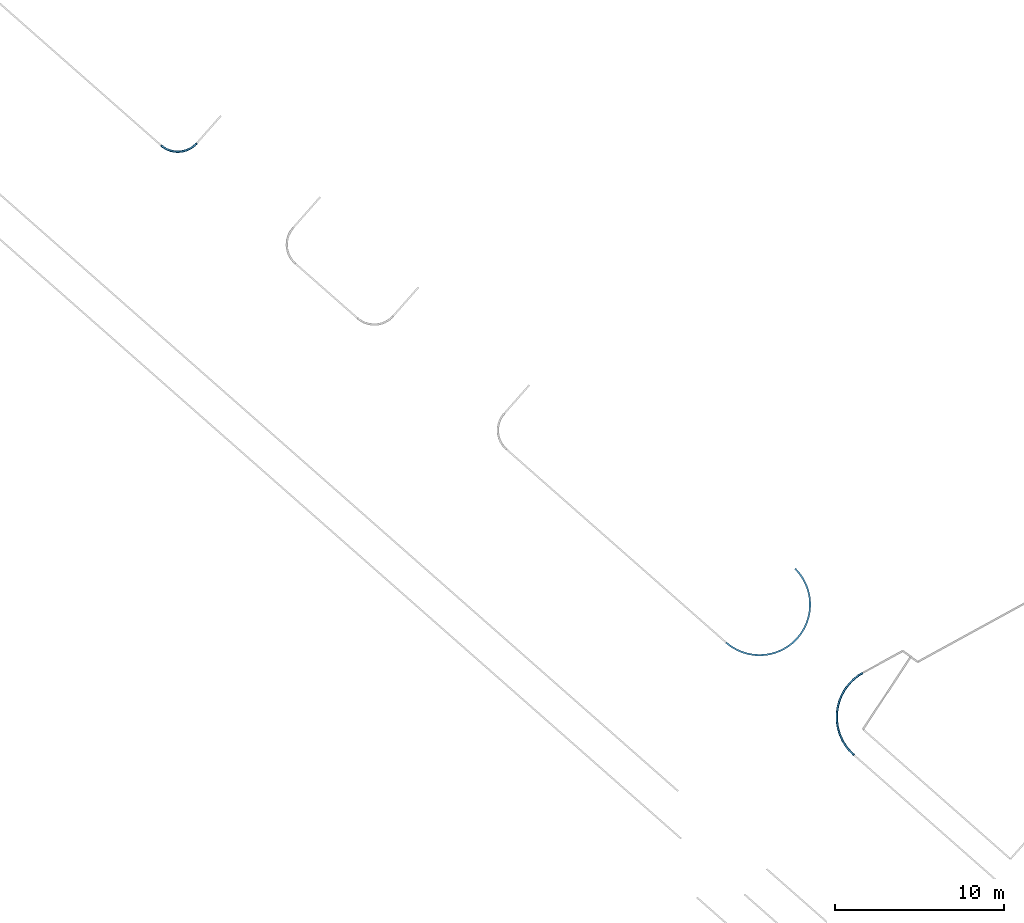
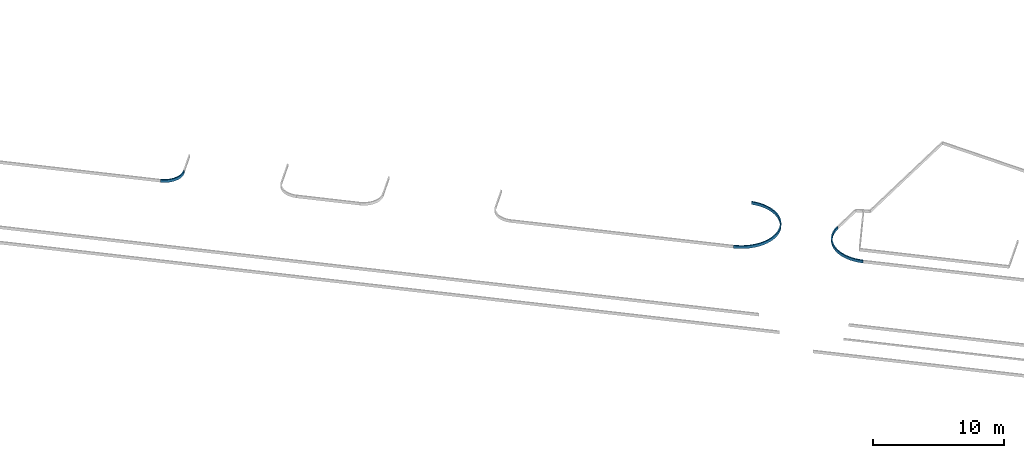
# One storey, part 22 of 24: 3 beams.
"""IFC2X3 building model written with IfcOpenShell, lengths in millimetres."""

from ifc_helpers import new_model, entity, si_unit, converted_unit, derived_unit, direction, frame, origin, place, context, subcontext, project, spatial, faceted_brep, material, type_object, element, save


model = new_model("IFC2X3")

# Units and contexts
model_context = context("Model", 3, precision=0.01, world=origin(), true_north=direction((6.123031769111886e-17, 1.0)))
body_context = subcontext(model_context, "Body", "Model", "MODEL_VIEW")
ifc_project = project(units=[si_unit("LENGTHUNIT", "METRE", prefix="MILLI"), si_unit("AREAUNIT", "SQUARE_METRE"), si_unit("VOLUMEUNIT", "CUBIC_METRE"), converted_unit("PLANEANGLEUNIT", "DEGREE", entity("IfcRatioMeasure", 0.017453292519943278), si_unit("PLANEANGLEUNIT", "RADIAN"), dimensions=[0, 0, 0, 0, 0, 0, 0]), si_unit("MASSUNIT", "GRAM", prefix="KILO"), derived_unit("MASSDENSITYUNIT", [(si_unit("MASSUNIT", "GRAM", prefix="KILO"), 1), (si_unit("LENGTHUNIT", "METRE"), -3)]), derived_unit("MOMENTOFINERTIAUNIT", [(si_unit("LENGTHUNIT", "METRE"), 4)]), si_unit("TIMEUNIT", "SECOND"), si_unit("FREQUENCYUNIT", "HERTZ"), si_unit("THERMODYNAMICTEMPERATUREUNIT", "DEGREE_CELSIUS"), derived_unit("THERMALTRANSMITTANCEUNIT", [(si_unit("MASSUNIT", "GRAM", prefix="KILO"), 1), (si_unit("THERMODYNAMICTEMPERATUREUNIT", "KELVIN"), -1), (si_unit("TIMEUNIT", "SECOND"), -3)]), derived_unit("THERMALCONDUCTANCEUNIT", [(si_unit("MASSUNIT", "GRAM", prefix="KILO"), 1), (si_unit("LENGTHUNIT", "METRE"), 1), (si_unit("THERMODYNAMICTEMPERATUREUNIT", "KELVIN"), -1), (si_unit("TIMEUNIT", "SECOND"), -3)]), derived_unit("VOLUMETRICFLOWRATEUNIT", [(si_unit("LENGTHUNIT", "METRE"), 3), (si_unit("TIMEUNIT", "SECOND"), -1)]), derived_unit("MASSFLOWRATEUNIT", [(si_unit("MASSUNIT", "GRAM", prefix="KILO"), 1), (si_unit("TIMEUNIT", "SECOND"), -1)]), derived_unit("ROTATIONALFREQUENCYUNIT", [(si_unit("TIMEUNIT", "SECOND"), -1)]), si_unit("ELECTRICCURRENTUNIT", "AMPERE"), si_unit("ELECTRICVOLTAGEUNIT", "VOLT"), si_unit("POWERUNIT", "WATT"), converted_unit("FORCEUNIT", "KIP", entity("IfcRatioMeasure", 2.088543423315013e-05), si_unit("FORCEUNIT", "NEWTON"), dimensions=[1, 1, -2, 0, 0, 0, 0]), si_unit("ILLUMINANCEUNIT", "LUX"), si_unit("LUMINOUSFLUXUNIT", "LUMEN"), si_unit("LUMINOUSINTENSITYUNIT", "CANDELA"), derived_unit("USERDEFINED", [(si_unit("MASSUNIT", "GRAM", prefix="KILO"), -1), (si_unit("LENGTHUNIT", "METRE"), -2), (si_unit("TIMEUNIT", "SECOND"), 3), (si_unit("LUMINOUSFLUXUNIT", "LUMEN"), 1)]), derived_unit("USERDEFINED", [(si_unit("MASSUNIT", "GRAM", prefix="KILO"), 1), (si_unit("LENGTHUNIT", "METRE"), 3), (si_unit("TIMEUNIT", "SECOND"), -3), (si_unit("ELECTRICCURRENTUNIT", "AMPERE"), -2)]), derived_unit("USERDEFINED", [(si_unit("LENGTHUNIT", "METRE"), 2), (si_unit("TIMEUNIT", "SECOND"), -2)]), derived_unit("SOUNDPOWERUNIT", [(si_unit("MASSUNIT", "GRAM", prefix="KILO"), 1), (si_unit("LENGTHUNIT", "METRE"), 2), (si_unit("TIMEUNIT", "SECOND"), -3)]), derived_unit("SOUNDPRESSUREUNIT", [(si_unit("MASSUNIT", "GRAM", prefix="KILO"), 1), (si_unit("LENGTHUNIT", "METRE"), -1), (si_unit("TIMEUNIT", "SECOND"), -2)]), derived_unit("LINEARVELOCITYUNIT", [(si_unit("LENGTHUNIT", "METRE"), 1), (si_unit("TIMEUNIT", "SECOND"), -1)]), si_unit("PRESSUREUNIT", "PASCAL"), derived_unit("USERDEFINED", [(si_unit("LENGTHUNIT", "METRE"), -2), (si_unit("MASSUNIT", "GRAM", prefix="KILO"), 1), (si_unit("TIMEUNIT", "SECOND"), -2)]), derived_unit("LINEARFORCEUNIT", [(si_unit("MASSUNIT", "GRAM", prefix="KILO"), 1), (si_unit("LENGTHUNIT", "METRE"), 1), (si_unit("TIMEUNIT", "SECOND"), -2), (si_unit("LENGTHUNIT", "METRE"), -1)]), derived_unit("PLANARFORCEUNIT", [(si_unit("MASSUNIT", "GRAM", prefix="KILO"), 1), (si_unit("LENGTHUNIT", "METRE"), 1), (si_unit("TIMEUNIT", "SECOND"), -2), (si_unit("LENGTHUNIT", "METRE"), -2)]), derived_unit("SPECIFICHEATCAPACITYUNIT", [(si_unit("LENGTHUNIT", "METRE"), 2), (si_unit("TIMEUNIT", "SECOND"), -2), (si_unit("THERMODYNAMICTEMPERATUREUNIT", "KELVIN"), -1)]), derived_unit("VAPORPERMEABILITYUNIT", [(si_unit("TIMEUNIT", "SECOND"), 1), (si_unit("LENGTHUNIT", "METRE"), -1)]), derived_unit("DYNAMICVISCOSITYUNIT", [(si_unit("MASSUNIT", "GRAM", prefix="KILO"), 1), (si_unit("LENGTHUNIT", "METRE"), -1), (si_unit("TIMEUNIT", "SECOND"), -1)]), derived_unit("THERMALEXPANSIONCOEFFICIENTUNIT", [(si_unit("THERMODYNAMICTEMPERATUREUNIT", "KELVIN"), -1)])], contexts=[model_context])

# Site, building, storey
site_placement = place(None, frame((0.0, 0.0, 0.0), z_axis=(0.0, 0.0, 1.0), x_axis=(0.8191520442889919, 0.5735764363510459, 0.0)))
site = spatial("IfcSite", under=ifc_project, at=site_placement, Name="Default", CompositionType="ELEMENT")
building_placement = place(site_placement, origin())
building = spatial("IfcBuilding", under=site, at=building_placement, CompositionType="ELEMENT")
storey_placement = place(building_placement, frame((0.0, 0.0, -1150.0)))
storey = spatial("IfcBuildingStorey", under=building, at=storey_placement, Name="6.EG KH -1.15", CompositionType="ELEMENT", Elevation=-1150.0000000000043)

# Beams
ifc_material = material(Name="Paveta_bordur")
beam_type_1 = type_object("IfcBeamType", Name="Beam-140", PredefinedType="NOTDEFINED")
beam_1_placement = place(storey_placement, frame((-114273.63336337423, 183572.0890714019, 910.0)))
element("IfcBeam", 1, at=beam_1_placement, inside=storey, type_object=beam_type_1, material=ifc_material, Name="Beam-140 237496:Beam-140 237496", ObjectType="Beam-140 237496:Beam-140 237496", context=body_context, shape_type="Brep", body=[
    faceted_brep([(5868.967603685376, 3572.3588704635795, 0.0), (5868.967603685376, 3572.3588704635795, 250.0), (5967.394927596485, 3590.0241445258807, 250.0), (5967.394927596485, 3590.0241445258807, 0.0), (1.5952722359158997, 2331.096690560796, 250.0), (98.76789885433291, 2354.7077184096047, 250.0), (98.76789885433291, 2354.7077184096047, 0.0), (1.5952722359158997, 2331.096690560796, 0.0), (5896.866819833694, 3381.0466427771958, 0.0), (5896.866819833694, 3381.0466427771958, 250.0), (5912.174719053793, 3188.3178100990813, 0.0), (5912.174719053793, 3188.3178100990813, 250.0), (5914.825551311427, 2995.0001755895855, 250.0), (5914.825551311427, 2995.0001755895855, 0.0), (5904.807930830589, 2801.924071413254, 250.0), (5904.807930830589, 2801.924071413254, 0.0), (5846.993669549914, 2419.809033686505, 250.0), (5882.1648849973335, 2609.918792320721, 250.0), (5882.1648849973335, 2609.918792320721, 0.0), (5846.993669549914, 2419.809033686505, 0.0), (5584.840377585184, 1694.4608689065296, 250.0), (5668.086600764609, 1868.9567171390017, 250.0), (5668.086600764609, 1868.9567171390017, 0.0), (5584.840377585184, 1694.4608689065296, 0.0), (5739.724157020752, 2048.5306441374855, 250.0), (5739.724157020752, 2048.5306441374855, 0.0), (5799.445350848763, 2232.411349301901, 250.0), (5799.445350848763, 2232.411349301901, 0.0), (5490.343044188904, 1525.79258882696, 0.0), (5490.343044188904, 1525.79258882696, 250.0), (4553.533430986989, 565.2300183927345, 250.0), (4712.961750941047, 674.597954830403, 250.0), (4712.961750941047, 674.597954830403, 0.0), (4553.533430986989, 565.2300183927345, 0.0), (4387.283639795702, 466.5398889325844, 0.0), (4387.283639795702, 466.5398889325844, 250.0), (4037.2021606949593, 302.84093091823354, 250.0), (4214.926448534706, 378.9514573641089, 250.0), (4214.926448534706, 378.9514573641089, 0.0), (4037.2021606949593, 302.84093091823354, 0.0), (3854.8741323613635, 238.5352172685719, 250.0), (3854.8741323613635, 238.5352172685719, 0.0), (5269.26515741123, 1208.8084270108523, 250.0), (5385.000482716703, 1363.676335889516, 250.0), (5385.000482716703, 1363.676335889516, 0.0), (5269.26515741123, 1208.8084270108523, 0.0), (5143.634171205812, 1061.854046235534, 250.0), (5143.634171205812, 1061.854046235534, 0.0), (4864.883827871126, 794.1739443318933, 0.0), (4864.883827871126, 794.1739443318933, 250.0), (5008.647130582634, 923.4443876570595, 250.0), (5008.647130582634, 923.4443876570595, 0.0), (3668.725493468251, 186.31052040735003, 250.0), (3668.725493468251, 186.31052040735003, 0.0), (3479.5557841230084, 146.39115430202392, 0.0), (3479.5557841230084, 146.39115430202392, 250.0), (2517.086951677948, 135.49074965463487, 250.0), (2517.086951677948, 135.49074965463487, 0.0), (2327.061669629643, 171.1155571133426, 0.0), (2327.061669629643, 171.1155571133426, 250.0), (2139.777991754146, 219.11096028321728, 0.0), (2139.777991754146, 219.11096028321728, 250.0), (1956.0403333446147, 279.27081073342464, 250.0), (1956.0403333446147, 279.27081073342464, 0.0), (1776.637878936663, 351.33671166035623, 0.0), (1776.637878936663, 351.33671166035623, 250.0), (1602.3411926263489, 434.99912774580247, 0.0), (1602.3411926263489, 434.99912774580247, 250.0), (3288.177520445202, 118.94857942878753, 250.0), (3288.177520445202, 118.94857942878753, 0.0), (3095.4127046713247, 104.10066632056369, 0.0), (3095.4127046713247, 104.10066632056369, 250.0), (2709.037646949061, 112.38955252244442, 250.0), (2902.0892945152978, 101.91118929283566, 250.0), (2902.0892945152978, 101.91118929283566, 0.0), (2709.037646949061, 112.38955252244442, 0.0), (1433.898908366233, 529.8987146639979, 250.0), (1433.898908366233, 529.8987146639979, 0.0), (475.5747458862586, 1468.998018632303, 250.0), (584.5618992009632, 1309.3091488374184, 250.0), (584.5618992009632, 1309.3091488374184, 0.0), (475.5747458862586, 1468.998018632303, 0.0), (377.28164841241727, 1635.482857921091, 0.0), (377.28164841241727, 1635.482857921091, 250.0), (214.41861721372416, 1985.9540035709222, 250.0), (290.1047923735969, 1808.0485859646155, 250.0), (290.1047923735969, 1808.0485859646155, 0.0), (214.41861721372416, 1985.9540035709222, 0.0), (150.54820794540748, 2168.434976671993, 250.0), (150.54820794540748, 2168.434976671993, 0.0), (1117.4432460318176, 751.7324466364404, 250.0), (1272.034514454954, 635.62786252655, 250.0), (1272.034514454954, 635.62786252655, 0.0), (1117.4432460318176, 751.7324466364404, 0.0), (970.789098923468, 877.713778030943, 250.0), (970.789098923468, 877.713778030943, 0.0), (703.7749899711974, 1157.1021394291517, 0.0), (703.7749899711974, 1157.1021394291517, 250.0), (832.7019776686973, 1013.0307454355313, 250.0), (832.7019776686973, 1013.0307454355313, 0.0), (118.16882564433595, 1957.6150722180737, 250.0), (281.59452191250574, 1602.129552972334, 250.0), (489.183099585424, 1270.4898463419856, 250.0), (737.518572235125, 968.1532696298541, 250.0), (1022.5144404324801, 700.0949407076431, 250.0), (1339.4809373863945, 470.7259096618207, 250.0), (1683.2022016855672, 283.82057249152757, 250.0), (2048.022107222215, 142.4545613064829, 250.0), (2427.937337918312, 48.95413307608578, 250.0), (2816.696175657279, 4.857889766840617, 250.0), (3207.9013758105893, 10.89145978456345, 250.0), (3595.1154374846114, 66.95555735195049, 250.0), (3971.966536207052, 172.127616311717, 250.0), (4332.253375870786, 324.6769714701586, 250.0), (4670.047234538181, 522.0933376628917, 250.0), (4979.789524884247, 761.1281179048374, 250.0), (5256.383263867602, 1037.847860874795, 250.0), (5495.276946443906, 1347.6989880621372, 250.0), (5692.539443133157, 1685.5827254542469, 250.0), (5844.9246889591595, 2045.9390067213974, 250.0), (5949.925099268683, 2422.837967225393, 250.0), (6005.812833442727, 2810.077523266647, 250.0), (6011.668227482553, 3201.2854308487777, 250.0), (6011.668227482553, 3201.2854308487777, 0.0), (6005.812833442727, 2810.077523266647, 0.0), (5692.539443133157, 1685.5827254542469, 0.0), (5844.9246889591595, 2045.9390067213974, 0.0), (5949.925099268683, 2422.837967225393, 0.0), (4670.047234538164, 522.0933376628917, 0.0), (4979.78952488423, 761.1281179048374, 0.0), (4332.253375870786, 324.6769714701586, 0.0), (5256.383263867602, 1037.847860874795, 0.0), (5495.276946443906, 1347.6989880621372, 0.0), (3971.966536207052, 172.127616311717, 0.0), (3595.1154374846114, 66.95555735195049, 0.0), (2048.022107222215, 142.4545613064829, 0.0), (2427.937337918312, 48.95413307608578, 0.0), (1683.2022016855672, 283.82057249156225, 0.0), (2816.696175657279, 4.857889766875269, 0.0), (3207.9013758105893, 10.89145978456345, 0.0), (1339.480937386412, 470.7259096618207, 0.0), (281.594521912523, 1602.129552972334, 0.0), (489.183099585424, 1270.4898463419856, 0.0), (118.16882564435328, 1957.6150722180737, 0.0), (737.518572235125, 968.1532696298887, 0.0), (1022.5144404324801, 700.0949407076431, 0.0)], [[[0, 1, 2, 3]], [[4, 5, 6, 7]], [[0, 8, 9, 1]], [[8, 10, 11, 9]], [[12, 11, 10, 13]], [[14, 12, 13, 15]], [[16, 17, 18, 19]], [[14, 15, 18, 17]], [[20, 21, 22, 23]], [[24, 25, 22, 21]], [[25, 24, 26, 27]], [[20, 23, 28, 29]], [[16, 19, 27, 26]], [[30, 31, 32, 33]], [[30, 33, 34, 35]], [[36, 37, 38, 39]], [[38, 37, 35, 34]], [[40, 36, 39, 41]], [[42, 43, 44, 45]], [[46, 42, 45, 47]], [[48, 49, 50, 51]], [[51, 50, 46, 47]], [[31, 49, 48, 32]], [[29, 28, 44, 43]], [[52, 40, 41, 53]], [[53, 54, 55, 52]], [[56, 57, 58, 59]], [[60, 61, 59, 58]], [[62, 63, 64, 65]], [[62, 61, 60, 63]], [[65, 64, 66, 67]], [[68, 55, 54, 69]], [[68, 69, 70, 71]], [[72, 73, 74, 75]], [[74, 73, 71, 70]], [[72, 75, 57, 56]], [[76, 67, 66, 77]], [[78, 79, 80, 81]], [[78, 81, 82, 83]], [[84, 85, 86, 87]], [[86, 85, 83, 82]], [[88, 84, 87, 89]], [[90, 91, 92, 93]], [[94, 90, 93, 95]], [[96, 97, 98, 99]], [[94, 95, 99, 98]], [[79, 97, 96, 80]], [[76, 77, 92, 91]], [[5, 88, 89, 6]], [[88, 5, 4, 100, 101, 102, 103, 104, 105, 106, 107, 108, 109, 110, 111, 112, 113, 114, 115, 116, 117, 118, 119, 120, 121, 122, 2, 1, 9, 11, 12, 14, 17, 16, 26, 24, 21, 20, 29, 43, 42, 46, 50, 49, 31, 30, 35, 37, 36, 40, 52, 55, 68, 71, 73, 72, 56, 59, 61, 62, 65, 67, 76, 91, 90, 94, 98, 97, 79, 78, 83, 85, 84]], [[122, 123, 3, 2]], [[121, 124, 123, 122]], [[125, 126, 119, 118]], [[120, 127, 124, 121]], [[126, 127, 120, 119]], [[128, 129, 115, 114]], [[130, 128, 114, 113]], [[131, 132, 117, 116]], [[129, 131, 116, 115]], [[117, 132, 125, 118]], [[133, 130, 113, 112]], [[112, 111, 134, 133]], [[107, 135, 136, 108]], [[106, 137, 135, 107]], [[138, 139, 110, 109]], [[108, 136, 138, 109]], [[140, 137, 106, 105]], [[141, 142, 102, 101]], [[143, 141, 101, 100]], [[144, 145, 104, 103]], [[142, 144, 103, 102]], [[104, 145, 140, 105]], [[7, 143, 100, 4]], [[110, 139, 134, 111]], [[7, 6, 89, 87, 86, 82, 81, 80, 96, 99, 95, 93, 92, 77, 66, 64, 63, 60, 58, 57, 75, 74, 70, 69, 54, 53, 41, 39, 38, 34, 33, 32, 48, 51, 47, 45, 44, 28, 23, 22, 25, 27, 19, 18, 15, 13, 10, 8, 0, 3, 123, 124, 127, 126, 125, 132, 131, 129, 128, 130, 133, 134, 139, 138, 136, 135, 137, 140, 145, 144, 142, 141, 143]]]),
])
beam_type_2 = type_object("IfcBeamType", Name="Beam-139", PredefinedType="NOTDEFINED")
beam_2_placement = place(storey_placement, frame((-111974.0769520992, 176084.61291335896, 910.0)))
element("IfcBeam", 2, at=beam_2_placement, inside=storey, type_object=beam_type_2, material=ifc_material, Name="Beam-139 237500:Beam-139 237500", ObjectType="Beam-139 237500:Beam-139 237500", context=body_context, shape_type="Brep", body=[
    faceted_brep([(184.5430260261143, 25.206300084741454, 0.0), (184.5430260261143, 25.206300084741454, 250.0), (87.37039940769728, 1.5952722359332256, 250.0), (87.37039940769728, 1.5952722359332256, 0.0), (3382.2489681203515, 3753.705216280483, 250.0), (3371.3927892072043, 3654.2962459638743, 250.0), (3371.3927892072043, 3654.2962459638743, 0.0), (3382.2489681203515, 3753.705216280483, 0.0), (145.89986757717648, 209.7688743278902, 0.0), (145.89986757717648, 209.7688743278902, 250.0), (119.12690857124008, 396.42322378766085, 0.0), (119.12690857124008, 396.42322378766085, 250.0), (104.33353785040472, 584.4067169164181, 0.0), (104.33353785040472, 584.4067169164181, 250.0), (132.18937081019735, 1148.6431219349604, 250.0), (110.87813892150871, 961.2865930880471, 250.0), (110.87813892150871, 961.2865930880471, 0.0), (132.18937081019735, 1148.6431219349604, 0.0), (101.5801981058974, 772.9512915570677, 250.0), (101.5801981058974, 772.9512915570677, 0.0), (414.20487299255, 2044.2658589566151, 250.0), (335.09834690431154, 1873.0969510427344, 250.0), (335.09834690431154, 1873.0969510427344, 0.0), (414.20487299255, 2044.2658589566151, 0.0), (504.0853590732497, 2210.031162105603, 250.0), (504.0853590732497, 2210.031162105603, 0.0), (604.37257183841, 2369.715577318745, 250.0), (604.37257183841, 2369.715577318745, 0.0), (210.45468635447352, 1517.3649862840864, 250.0), (165.42682043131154, 1334.2553775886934, 250.0), (165.42682043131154, 1334.2553775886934, 0.0), (210.45468635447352, 1517.3649862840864, 0.0), (267.08899391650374, 1697.223799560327, 250.0), (267.08899391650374, 1697.223799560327, 0.0), (714.6567582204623, 2522.6666666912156, 0.0), (714.6567582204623, 2522.6666666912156, 250.0), (834.4873195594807, 2668.2595033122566, 0.0), (834.4873195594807, 2668.2595033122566, 250.0), (1398.9392407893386, 3165.652136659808, 250.0), (1398.9392407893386, 3165.652136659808, 0.0), (1558.4506657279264, 3266.214270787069, 0.0), (1558.4506657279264, 3266.214270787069, 250.0), (1724.0608960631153, 3356.380168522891, 0.0), (1724.0608960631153, 3356.380168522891, 250.0), (1100.792150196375, 2935.0234627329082, 250.0), (963.3746526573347, 2805.8992245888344, 250.0), (963.3746526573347, 2805.8992245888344, 0.0), (1100.792150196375, 2935.0234627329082, 0.0), (1246.1783523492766, 3055.104642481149, 250.0), (1246.1783523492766, 3055.104642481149, 0.0), (1895.0932822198, 3435.7814304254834, 250.0), (1895.0932822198, 3435.7814304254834, 0.0), (2806.5160487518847, 3661.571977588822, 250.0), (2619.1965083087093, 3639.9380395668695, 250.0), (2619.1965083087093, 3639.9380395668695, 0.0), (2806.5160487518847, 3661.571977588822, 0.0), (2994.8350543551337, 3671.194328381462, 250.0), (2994.8350543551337, 3671.194328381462, 0.0), (3183.384092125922, 3668.765776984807, 250.0), (3183.384092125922, 3668.765776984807, 0.0), (2250.6100097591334, 3561.037684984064, 250.0), (2070.849020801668, 3504.0936391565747, 250.0), (2070.849020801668, 3504.0936391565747, 0.0), (2250.6100097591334, 3561.037684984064, 0.0), (2433.641782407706, 3606.3809061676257, 0.0), (2433.641782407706, 3606.3809061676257, 250.0), (2992.9265642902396, 3771.176115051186, 250.0), (2604.5545082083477, 3738.860291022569, 250.0), (2223.4735520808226, 3657.285348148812, 250.0), (1855.9054100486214, 3527.7831188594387, 250.0), (1507.8511794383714, 3352.467919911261, 250.0), (1184.9933639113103, 3134.20203301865, 250.0), (892.603098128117, 2876.548973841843, 250.0), (635.4540886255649, 2583.7153122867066, 250.0), (417.74467594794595, 2260.481993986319, 250.0), (243.02929048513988, 1912.1262842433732, 250.0), (114.16042110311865, 1544.3356088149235, 250.0), (33.24204401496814, 1163.1146982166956, 250.0), (1.5952722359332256, 774.687551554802, 250.0), (19.736786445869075, 385.3958204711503, 250.0), (19.736786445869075, 385.3958204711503, 0.0), (33.24204401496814, 1163.1146982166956, 0.0), (1.5952722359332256, 774.687551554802, 0.0), (417.74467594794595, 2260.481993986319, 0.0), (243.02929048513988, 1912.1262842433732, 0.0), (114.16042110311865, 1544.3356088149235, 0.0), (635.4540886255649, 2583.7153122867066, 0.0), (892.603098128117, 2876.548973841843, 0.0), (1507.8511794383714, 3352.467919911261, 0.0), (1184.9933639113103, 3134.20203301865, 0.0), (1855.9054100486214, 3527.7831188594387, 0.0), (2992.9265642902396, 3771.176115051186, 0.0), (2604.5545082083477, 3738.860291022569, 0.0), (2223.4735520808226, 3657.285348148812, 0.0)], [[[0, 1, 2, 3]], [[4, 5, 6, 7]], [[1, 0, 8, 9]], [[9, 8, 10, 11]], [[11, 10, 12, 13]], [[14, 15, 16, 17]], [[16, 15, 18, 19]], [[18, 13, 12, 19]], [[20, 21, 22, 23]], [[24, 20, 23, 25]], [[26, 24, 25, 27]], [[28, 29, 30, 31]], [[32, 28, 31, 33]], [[21, 32, 33, 22]], [[30, 29, 14, 17]], [[26, 27, 34, 35]], [[34, 36, 37, 35]], [[38, 39, 40, 41]], [[41, 40, 42, 43]], [[44, 45, 46, 47]], [[48, 44, 47, 49]], [[48, 49, 39, 38]], [[50, 43, 42, 51]], [[52, 53, 54, 55]], [[56, 52, 55, 57]], [[58, 56, 57, 59]], [[60, 61, 62, 63]], [[64, 65, 60, 63]], [[53, 65, 64, 54]], [[62, 61, 50, 51]], [[5, 58, 59, 6]], [[36, 46, 45, 37]], [[58, 5, 4, 66, 67, 68, 69, 70, 71, 72, 73, 74, 75, 76, 77, 78, 79, 2, 1, 9, 11, 13, 18, 15, 14, 29, 28, 32, 21, 20, 24, 26, 35, 37, 45, 44, 48, 38, 41, 43, 50, 61, 60, 65, 53, 52, 56]], [[3, 2, 79, 80]], [[78, 77, 81, 82]], [[80, 79, 78, 82]], [[75, 74, 83, 84]], [[84, 85, 76, 75]], [[77, 76, 85, 81]], [[86, 83, 74, 73]], [[73, 72, 87, 86]], [[88, 89, 71, 70]], [[89, 87, 72, 71]], [[90, 88, 70, 69]], [[67, 66, 91, 92]], [[92, 93, 68, 67]], [[93, 90, 69, 68]], [[7, 91, 66, 4]], [[91, 7, 6, 59, 57, 55, 54, 64, 63, 62, 51, 42, 40, 39, 49, 47, 46, 36, 34, 27, 25, 23, 22, 33, 31, 30, 17, 16, 19, 12, 10, 8, 0, 3, 80, 82, 81, 85, 84, 83, 86, 87, 89, 88, 90, 93, 92]]]),
])
beam_type_3 = type_object("IfcBeamType", Name="Beam-141", PredefinedType="NOTDEFINED")
beam_3_placement = place(storey_placement, frame((-124815.87864071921, 228105.24121696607, 910.0)))
element("IfcBeam", 3, at=beam_3_placement, inside=storey, type_object=beam_type_3, material=ifc_material, Name="Beam-141 237873:Beam-141 237873", ObjectType="Beam-141 237873:Beam-141 237873", context=body_context, shape_type="Brep", body=[
    faceted_brep([(98.76789892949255, 1208.8096393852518, 250.0), (98.76789892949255, 1208.8096393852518, 0.0), (1.5952722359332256, 1185.1986118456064, 0.0), (1.5952722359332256, 1185.1986118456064, 250.0), (1873.7419032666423, 44.993822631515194, 250.0), (1873.7419032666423, 44.993822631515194, 0.0), (1850.130876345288, 142.16644947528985, 0.0), (1850.130876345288, 142.16644947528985, 250.0), (1071.6232425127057, 63.797646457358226, 0.0), (943.6499148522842, 107.47032588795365, 0.0), (819.9698891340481, 162.13042796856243, 0.0), (701.5244450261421, 227.36195632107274, 0.0), (589.2150238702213, 302.66845963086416, 0.0), (483.89636816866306, 387.4768099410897, 0.0), (386.370016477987, 481.1415645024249, 0.0), (297.37820321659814, 582.9498779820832, 0.0), (217.59820981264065, 692.126927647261, 0.0), (147.63721018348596, 807.8418102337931, 0.0), (88.02764977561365, 929.2138656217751, 0.0), (39.22319333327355, 1055.3193791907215, 0.0), (136.36744377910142, 1080.2636835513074, 0.0), (185.66732001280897, 955.7353304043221, 0.0), (246.24691847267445, 836.2870119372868, 0.0), (317.58939538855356, 722.9378190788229, 0.0), (399.0860819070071, 616.6548071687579, 0.0), (490.0416770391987, 518.3447453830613, 0.0), (589.6801797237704, 428.84638049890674, 0.0), (697.1515093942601, 348.92328100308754, 0.0), (811.5387585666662, 279.25732259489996, 0.0), (931.8660155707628, 220.44287066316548, 0.0), (1057.1066906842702, 172.98170937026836, 0.0), (1186.1922746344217, 137.27876060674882, 0.0), (1318.0214547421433, 113.6386293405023, 0.0), (1451.4695109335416, 102.2630048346, 0.0), (1585.3979114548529, 103.2489399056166, 0.0), (1718.6640264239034, 116.5880229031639, 0.0), (1741.0774107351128, 18.828808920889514, 0.0), (1606.637315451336, 4.325833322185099, 0.0), (1471.4447877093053, 1.5952722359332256, 0.0), (1336.5287242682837, 10.65790688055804, 0.0), (1202.915917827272, 31.444765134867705, 0.0), (39.22319333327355, 1055.3193791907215, 250.0), (88.02764977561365, 929.2138656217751, 250.0), (147.63721018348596, 807.8418102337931, 250.0), (483.89636816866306, 387.4768099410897, 250.0), (589.2150238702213, 302.66845963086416, 250.0), (297.37820321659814, 582.9498779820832, 250.0), (386.370016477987, 481.1415645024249, 250.0), (701.5244450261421, 227.36195632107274, 250.0), (217.59820981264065, 692.126927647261, 250.0), (943.6499148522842, 107.47032588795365, 250.0), (1071.6232425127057, 63.797646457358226, 250.0), (819.9698891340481, 162.13042796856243, 250.0), (1202.915917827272, 31.444765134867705, 250.0), (1741.0774107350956, 18.828808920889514, 250.0), (1606.637315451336, 4.325833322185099, 250.0), (1336.5287242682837, 10.65790688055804, 250.0), (1471.4447877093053, 1.5952722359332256, 250.0), (1186.1922746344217, 137.27876060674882, 250.0), (1057.1066906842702, 172.98170937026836, 250.0), (931.8660155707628, 220.44287066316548, 250.0), (811.5387585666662, 279.25732259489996, 250.0), (697.1515093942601, 348.92328100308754, 250.0), (589.6801797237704, 428.84638049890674, 250.0), (490.0416770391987, 518.3447453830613, 250.0), (399.0860819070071, 616.6548071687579, 250.0), (317.58939538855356, 722.9378190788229, 250.0), (246.24691847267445, 836.2870119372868, 250.0), (185.66732001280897, 955.7353304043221, 250.0), (136.36744377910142, 1080.2636835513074, 250.0), (1718.6640264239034, 116.5880229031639, 250.0), (1585.3979114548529, 103.2489399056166, 250.0), (1451.4695109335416, 102.2630048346, 250.0), (1318.0214547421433, 113.6386293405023, 250.0)], [[[0, 1, 2, 3]], [[4, 5, 6, 7]], [[8, 9, 10, 11, 12, 13, 14, 15, 16, 17, 18, 19, 2, 1, 20, 21, 22, 23, 24, 25, 26, 27, 28, 29, 30, 31, 32, 33, 34, 35, 6, 5, 36, 37, 38, 39, 40]], [[41, 3, 2, 19]], [[19, 18, 42, 41]], [[17, 43, 42, 18]], [[44, 13, 12, 45]], [[46, 15, 14, 47]], [[13, 44, 47, 14]], [[12, 11, 48, 45]], [[43, 17, 16, 49]], [[46, 49, 16, 15]], [[50, 9, 8, 51]], [[52, 10, 9, 50]], [[51, 8, 40, 53]], [[37, 36, 54, 55]], [[56, 39, 38, 57]], [[57, 38, 37, 55]], [[40, 39, 56, 53]], [[54, 36, 5, 4]], [[48, 11, 10, 52]], [[58, 59, 60, 61, 62, 63, 64, 65, 66, 67, 68, 69, 0, 3, 41, 42, 43, 49, 46, 47, 44, 45, 48, 52, 50, 51, 53, 56, 57, 55, 54, 4, 7, 70, 71, 72, 73]], [[20, 1, 0, 69]], [[68, 21, 20, 69]], [[67, 22, 21, 68]], [[26, 25, 64, 63]], [[24, 23, 66, 65]], [[24, 65, 64, 25]], [[63, 62, 27, 26]], [[23, 22, 67, 66]], [[62, 61, 28, 27]], [[30, 29, 60, 59]], [[29, 28, 61, 60]], [[31, 30, 59, 58]], [[71, 70, 35, 34]], [[33, 32, 73, 72]], [[34, 33, 72, 71]], [[58, 73, 32, 31]], [[6, 35, 70, 7]]]),
])

save(model, "model.ifc")
